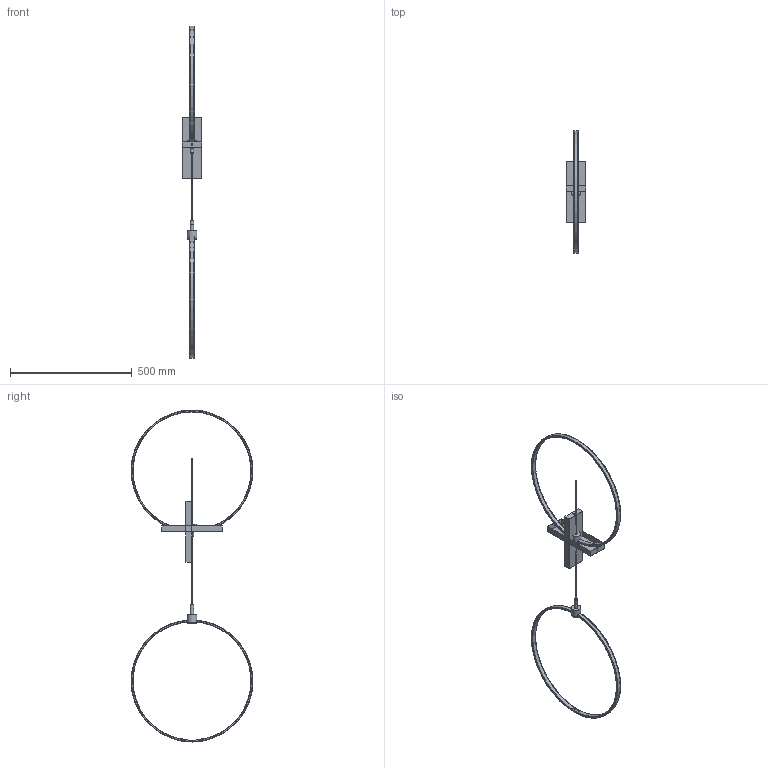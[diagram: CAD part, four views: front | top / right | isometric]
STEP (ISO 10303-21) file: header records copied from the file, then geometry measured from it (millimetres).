
FILE_DESCRIPTION( ( 'STEP AP203' ), '1' );
FILE_NAME( '//srvbf/BF Disegni/RING/RING-S Sospensione 3D.stp', '2020-10-15T14:22:34', ( ' ' ), ( ' ' ), 'XStep 1.0', ' ', ' ' );
FILE_SCHEMA( ( 'CONFIG_CONTROL_DESIGN) ( )' ) );
Length unit declared in the file: metre
Products named in the file (9): Assem1; 1; 2; 3; 4; 5; 6; 7; 8
Bounding box: 80 x 499.94 x 1361 mm (x, y, z)
Volume: 291458.2 mm3; surface area: 534340.9 mm2
Topology: 17 solids, 17 shells, 600 faces, 1602 edges, 1052 vertices
Faces by surface type: cylinder 288, plane 216, torus 96
Full cylindrical faces by diameter (mm): 1 x2, 2 x3, 3.242 x4, 4 x5, 5 x10, 8.376 x2, 8.917 x2, 10 x9, 12 x3, 13 x2, 15 x2, 40 x4
Entity records: 8960 total; most frequent: CARTESIAN_POINT 2126, DIRECTION 1392, ORIENTED_EDGE 1312, EDGE_CURVE 656, AXIS2_PLACEMENT_3D 567, VERTEX_POINT 441, EDGE_LOOP 309, CIRCLE 282
